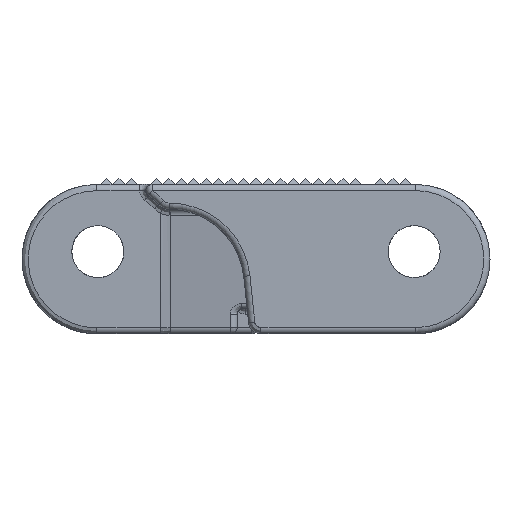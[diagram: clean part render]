
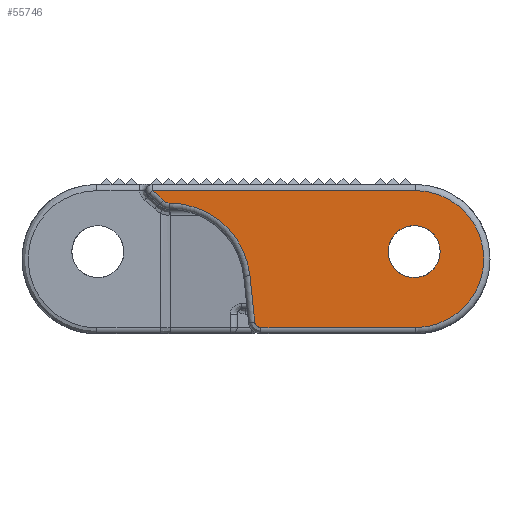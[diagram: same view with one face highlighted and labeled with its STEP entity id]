
A CAD part, left-side view. The second image highlights one B-rep face of the part: STEP entity #55746.
In plain terms, the highlighted planar face has unit normal (-1, 0, 0).
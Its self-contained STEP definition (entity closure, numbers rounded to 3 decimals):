
#3087=CARTESIAN_POINT('',(-145.85,-25.575,12.));
#3088=DIRECTION('',(-1.,0.,0.));
#3089=DIRECTION('',(0.,0.,-1.));
#3090=AXIS2_PLACEMENT_3D('',#3087,#3088,#3089);
#3092=DIRECTION('',(0.,-1.,0.));
#3093=VECTOR('',#3092,24.774);
#3094=CARTESIAN_POINT('',(-145.85,-0.801,1.));
#3095=LINE('',#3094,#3093);
#3096=CARTESIAN_POINT('',(-145.85,-0.801,2.));
#3097=DIRECTION('',(-1.,0.,0.));
#3098=DIRECTION('',(0.,0.995,-0.105));
#3099=AXIS2_PLACEMENT_3D('',#3096,#3097,#3098);
#3101=DIRECTION('',(0.,-0.105,-0.995));
#3102=VECTOR('',#3101,7.476);
#3103=CARTESIAN_POINT('',(-145.85,0.975,9.33));
#3104=LINE('',#3103,#3102);
#3105=CARTESIAN_POINT('',(-145.85,13.935,7.968));
#3106=DIRECTION('',(1.,0.,0.));
#3107=DIRECTION('',(0.,0.,1.));
#3108=AXIS2_PLACEMENT_3D('',#3105,#3106,#3107);
#3110=CARTESIAN_POINT('',(-145.85,13.935,22.268));
#3111=DIRECTION('',(-1.,0.,0.));
#3112=DIRECTION('',(0.,0.73,-0.683));
#3113=AXIS2_PLACEMENT_3D('',#3110,#3111,#3112);
#3115=CARTESIAN_POINT('',(-145.85,23.621,13.2));
#3116=DIRECTION('',(1.,0.,0.));
#3117=DIRECTION('',(0.,-0.577,0.817));
#3118=AXIS2_PLACEMENT_3D('',#3115,#3116,#3117);
#3120=DIRECTION('',(0.,1.,0.));
#3121=VECTOR('',#3120,42.271);
#3122=CARTESIAN_POINT('',(-145.85,-25.575,23.));
#3123=LINE('',#3122,#3121);
#3124=CARTESIAN_POINT('',(-145.85,-25.4,13.2));
#3125=DIRECTION('',(1.,0.,0.));
#3126=DIRECTION('',(0.,0.,-1.));
#3127=AXIS2_PLACEMENT_3D('',#3124,#3125,#3126);
#3129=CARTESIAN_POINT('',(-145.85,-25.4,13.2));
#3130=DIRECTION('',(1.,0.,0.));
#3131=DIRECTION('',(0.,0.,1.));
#3132=AXIS2_PLACEMENT_3D('',#3129,#3130,#3131);
#49955=CARTESIAN_POINT('',(-145.85,-25.4,9.025));
#49956=CARTESIAN_POINT('',(-145.85,-25.4,17.375));
#49957=VERTEX_POINT('',#49955);
#49958=VERTEX_POINT('',#49956);
#52944=CARTESIAN_POINT('',(-145.85,-25.575,1.));
#52945=CARTESIAN_POINT('',(-145.85,-25.575,23.));
#52946=VERTEX_POINT('',#52944);
#52947=VERTEX_POINT('',#52945);
#52952=CARTESIAN_POINT('',(-145.85,16.696,23.));
#52953=VERTEX_POINT('',#52952);
#52958=CARTESIAN_POINT('',(-145.85,14.861,21.401));
#52959=VERTEX_POINT('',#52958);
#52962=CARTESIAN_POINT('',(-145.85,13.935,21.));
#52963=VERTEX_POINT('',#52962);
#52966=CARTESIAN_POINT('',(-145.85,0.975,9.33));
#52967=VERTEX_POINT('',#52966);
#52970=CARTESIAN_POINT('',(-145.85,0.194,1.895));
#52971=VERTEX_POINT('',#52970);
#52974=CARTESIAN_POINT('',(-145.85,-0.801,1.));
#52975=VERTEX_POINT('',#52974);
#55718=CARTESIAN_POINT('',(-145.85,0.,-2.502));
#55719=DIRECTION('',(-1.,0.,0.));
#55720=DIRECTION('',(0.,1.,0.));
#55721=AXIS2_PLACEMENT_3D('',#55718,#55719,#55720);
#55722=PLANE('',#55721);
#55724=ORIENTED_EDGE('',*,*,#55723,.F.);
#55726=ORIENTED_EDGE('',*,*,#55725,.F.);
#55728=ORIENTED_EDGE('',*,*,#55727,.F.);
#55730=ORIENTED_EDGE('',*,*,#55729,.F.);
#55732=ORIENTED_EDGE('',*,*,#55731,.F.);
#55734=ORIENTED_EDGE('',*,*,#55733,.F.);
#55736=ORIENTED_EDGE('',*,*,#55735,.F.);
#55737=ORIENTED_EDGE('',*,*,#55708,.F.);
#55738=EDGE_LOOP('',(#55724,#55726,#55728,#55730,#55732,#55734,#55736,#55737));
#55739=FACE_OUTER_BOUND('',#55738,.F.);
#55741=ORIENTED_EDGE('',*,*,#55740,.F.);
#55743=ORIENTED_EDGE('',*,*,#55742,.F.);
#55744=EDGE_LOOP('',(#55741,#55743));
#55745=FACE_BOUND('',#55744,.F.);
#55746=ADVANCED_FACE('',(#55739,#55745),#55722,.T.);
#3091=CIRCLE('',#3090,11.);
#3100=CIRCLE('',#3099,1.);
#3109=CIRCLE('',#3108,13.032);
#3114=CIRCLE('',#3113,1.268);
#3119=CIRCLE('',#3118,12.);
#3128=CIRCLE('',#3127,4.175);
#3133=CIRCLE('',#3132,4.175);
#55708=EDGE_CURVE('',#52947,#52953,#3123,.T.);
#55723=EDGE_CURVE('',#52946,#52947,#3091,.T.);
#55725=EDGE_CURVE('',#52975,#52946,#3095,.T.);
#55727=EDGE_CURVE('',#52971,#52975,#3100,.T.);
#55729=EDGE_CURVE('',#52967,#52971,#3104,.T.);
#55731=EDGE_CURVE('',#52963,#52967,#3109,.T.);
#55733=EDGE_CURVE('',#52959,#52963,#3114,.T.);
#55735=EDGE_CURVE('',#52953,#52959,#3119,.T.);
#55740=EDGE_CURVE('',#49957,#49958,#3128,.T.);
#55742=EDGE_CURVE('',#49958,#49957,#3133,.T.);
